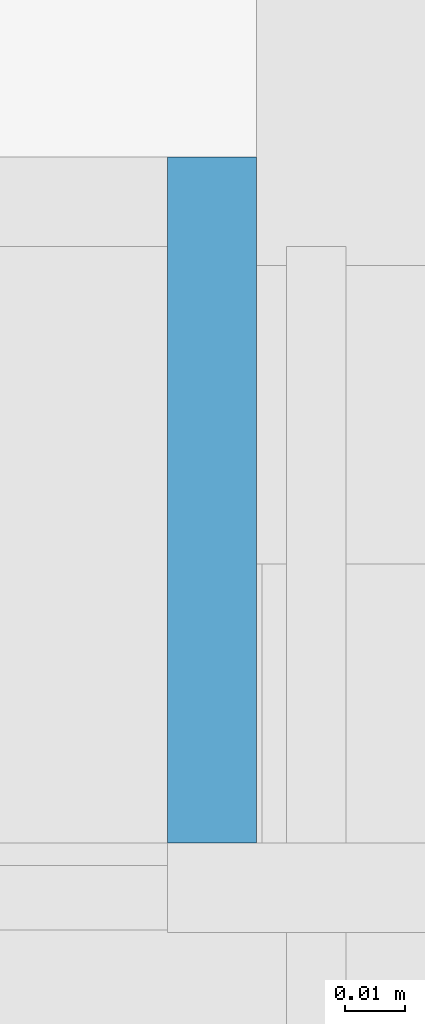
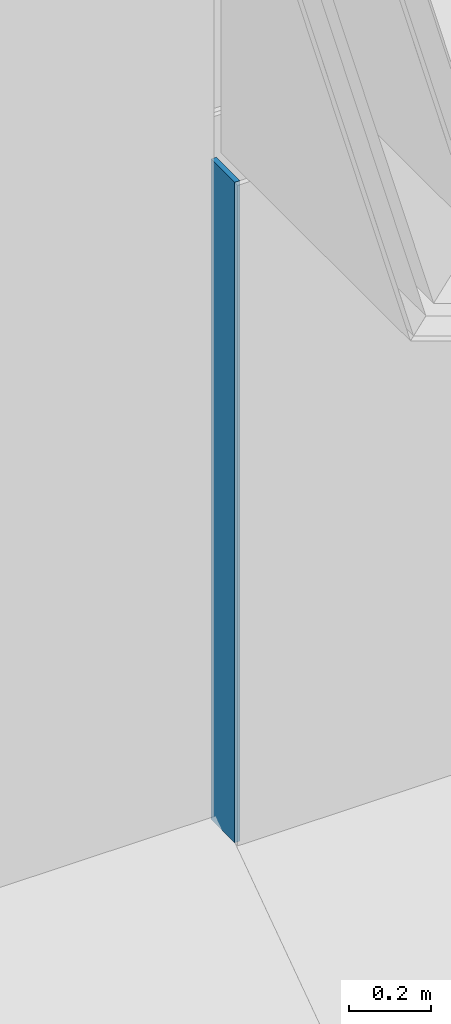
# One storey, part 296 of 583: 1 slab.
"""IFC2X3 building model written with IfcOpenShell, lengths in metres."""

from ifc_helpers import new_model, entity, si_unit, converted_unit, derived_unit, money_unit, direction, frame, origin_with_axes, place, context, subcontext, project, spatial, faceted_brep, material, type_object, element, save


model = new_model("IFC2X3")

# Units and contexts
model_context = context("Model", 3, precision=1e-05, world=origin_with_axes(), true_north=direction((0.0, 1.0)))
body_context = subcontext(model_context, "Body", "Model", "MODEL_VIEW", scale=1.0)
ifc_project = project(units=[si_unit("LENGTHUNIT", "METRE"), si_unit("AREAUNIT", "SQUARE_METRE"), si_unit("VOLUMEUNIT", "CUBIC_METRE"), si_unit("ABSORBEDDOSEUNIT", "GRAY"), si_unit("AMOUNTOFSUBSTANCEUNIT", "MOLE"), si_unit("DOSEEQUIVALENTUNIT", "SIEVERT"), si_unit("ELECTRICCAPACITANCEUNIT", "FARAD"), si_unit("ELECTRICCHARGEUNIT", "COULOMB"), si_unit("ELECTRICCONDUCTANCEUNIT", "SIEMENS"), si_unit("ELECTRICCURRENTUNIT", "AMPERE"), si_unit("ELECTRICRESISTANCEUNIT", "OHM"), si_unit("ELECTRICVOLTAGEUNIT", "VOLT"), si_unit("ENERGYUNIT", "JOULE"), si_unit("FORCEUNIT", "NEWTON"), si_unit("FREQUENCYUNIT", "HERTZ"), si_unit("ILLUMINANCEUNIT", "LUX"), si_unit("INDUCTANCEUNIT", "HENRY"), si_unit("LUMINOUSFLUXUNIT", "LUMEN"), si_unit("LUMINOUSINTENSITYUNIT", "CANDELA"), si_unit("MAGNETICFLUXDENSITYUNIT", "TESLA"), si_unit("MAGNETICFLUXUNIT", "WEBER"), si_unit("MASSUNIT", "GRAM"), converted_unit("PLANEANGLEUNIT", "degree", entity("IfcReal", 0.0174532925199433), si_unit("PLANEANGLEUNIT", "RADIAN"), dimensions=[0, 0, 0, 0, 0, 0, 0]), si_unit("POWERUNIT", "WATT"), si_unit("PRESSUREUNIT", "PASCAL"), si_unit("RADIOACTIVITYUNIT", "BECQUEREL"), si_unit("SOLIDANGLEUNIT", "STERADIAN"), si_unit("THERMODYNAMICTEMPERATUREUNIT", "KELVIN"), si_unit("TIMEUNIT", "SECOND"), derived_unit("ACCELERATIONUNIT", [(si_unit("LENGTHUNIT", "METRE"), 1), (si_unit("TIMEUNIT", "SECOND"), -2)]), derived_unit("ANGULARVELOCITYUNIT", [(converted_unit("PLANEANGLEUNIT", "degree", entity("IfcReal", 0.0174532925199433), si_unit("PLANEANGLEUNIT", "RADIAN"), dimensions=[0, 0, 0, 0, 0, 0, 0]), 1), (si_unit("TIMEUNIT", "SECOND"), -1)]), derived_unit("CURVATUREUNIT", [(converted_unit("PLANEANGLEUNIT", "degree", entity("IfcReal", 0.0174532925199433), si_unit("PLANEANGLEUNIT", "RADIAN"), dimensions=[0, 0, 0, 0, 0, 0, 0]), 1), (si_unit("LENGTHUNIT", "METRE"), -1)]), derived_unit("DYNAMICVISCOSITYUNIT", [(si_unit("PRESSUREUNIT", "PASCAL"), 1), (si_unit("TIMEUNIT", "SECOND"), 1)]), derived_unit("HEATFLUXDENSITYUNIT", [(si_unit("POWERUNIT", "WATT"), 1), (si_unit("LENGTHUNIT", "METRE"), -2)]), derived_unit("HEATINGVALUEUNIT", [(si_unit("ENERGYUNIT", "JOULE"), 1), (si_unit("MASSUNIT", "GRAM"), -1)]), derived_unit("INTEGERCOUNTRATEUNIT", [(si_unit("TIMEUNIT", "SECOND"), -1)]), derived_unit("IONCONCENTRATIONUNIT", [(si_unit("MASSUNIT", "GRAM"), 1), (si_unit("VOLUMEUNIT", "CUBIC_METRE"), -1)]), derived_unit("ISOTHERMALMOISTURECAPACITYUNIT", [(si_unit("VOLUMEUNIT", "CUBIC_METRE"), 1), (si_unit("MASSUNIT", "GRAM"), -1)]), derived_unit("KINEMATICVISCOSITYUNIT", [(si_unit("AREAUNIT", "SQUARE_METRE"), 1), (si_unit("TIMEUNIT", "SECOND"), -1)]), derived_unit("LINEARFORCEUNIT", [(si_unit("FORCEUNIT", "NEWTON"), 1), (si_unit("LENGTHUNIT", "METRE"), -1)]), derived_unit("LINEARMOMENTUNIT", [(si_unit("FORCEUNIT", "NEWTON"), 1), (si_unit("LENGTHUNIT", "METRE"), -1)]), derived_unit("LINEARSTIFFNESSUNIT", [(si_unit("FORCEUNIT", "NEWTON"), 1), (si_unit("LENGTHUNIT", "METRE"), -1)]), derived_unit("LINEARVELOCITYUNIT", [(si_unit("LENGTHUNIT", "METRE"), 1), (si_unit("TIMEUNIT", "SECOND"), -1)]), derived_unit("LUMINOUSINTENSITYDISTRIBUTIONUNIT", [(si_unit("LUMINOUSINTENSITYUNIT", "CANDELA"), 1), (si_unit("LUMINOUSFLUXUNIT", "LUMEN"), -1)]), derived_unit("MASSDENSITYUNIT", [(si_unit("MASSUNIT", "GRAM"), 1), (si_unit("VOLUMEUNIT", "CUBIC_METRE"), -1)]), derived_unit("MASSFLOWRATEUNIT", [(si_unit("MASSUNIT", "GRAM"), 1), (si_unit("TIMEUNIT", "SECOND"), -1)]), derived_unit("MASSPERLENGTHUNIT", [(si_unit("MASSUNIT", "GRAM"), 1), (si_unit("LENGTHUNIT", "METRE"), -1)]), derived_unit("MODULUSOFELASTICITYUNIT", [(si_unit("FORCEUNIT", "NEWTON"), 1), (si_unit("AREAUNIT", "SQUARE_METRE"), -1)]), derived_unit("MODULUSOFLINEARSUBGRADEREACTIONUNIT", [(si_unit("FORCEUNIT", "NEWTON"), 1), (si_unit("LENGTHUNIT", "METRE"), -2)]), derived_unit("MODULUSOFROTATIONALSUBGRADEREACTIONUNIT", [(si_unit("FORCEUNIT", "NEWTON"), 1), (si_unit("LENGTHUNIT", "METRE"), 1)]), derived_unit("MODULUSOFSUBGRADEREACTIONUNIT", [(si_unit("FORCEUNIT", "NEWTON"), 1), (si_unit("VOLUMEUNIT", "CUBIC_METRE"), -1)]), derived_unit("MOISTUREDIFFUSIVITYUNIT", [(si_unit("VOLUMEUNIT", "CUBIC_METRE"), 1), (si_unit("TIMEUNIT", "SECOND"), -1)]), derived_unit("MOLECULARWEIGHTUNIT", [(si_unit("MASSUNIT", "GRAM"), 1), (si_unit("AMOUNTOFSUBSTANCEUNIT", "MOLE"), -1)]), derived_unit("PLANARFORCEUNIT", [(si_unit("FORCEUNIT", "NEWTON"), 1), (si_unit("LENGTHUNIT", "METRE"), -2)]), derived_unit("ROTATIONALFREQUENCYUNIT", [(si_unit("TIMEUNIT", "SECOND"), -1)]), derived_unit("ROTATIONALMASSUNIT", [(si_unit("MASSUNIT", "GRAM"), 1), (si_unit("LENGTHUNIT", "METRE"), 2)]), derived_unit("ROTATIONALSTIFFNESSUNIT", [(si_unit("FORCEUNIT", "NEWTON"), 1), (si_unit("LENGTHUNIT", "METRE"), 1), (converted_unit("PLANEANGLEUNIT", "degree", entity("IfcReal", 0.0174532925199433), si_unit("PLANEANGLEUNIT", "RADIAN"), dimensions=[0, 0, 0, 0, 0, 0, 0]), -1)]), derived_unit("SECTIONAREAINTEGRALUNIT", [(si_unit("LENGTHUNIT", "METRE"), 5)]), derived_unit("SECTIONMODULUSUNIT", [(si_unit("LENGTHUNIT", "METRE"), 3)]), derived_unit("SHEARMODULUSUNIT", [(si_unit("FORCEUNIT", "NEWTON"), 1), (si_unit("AREAUNIT", "SQUARE_METRE"), -1)]), derived_unit("SOUNDPOWERUNIT", [(si_unit("ENERGYUNIT", "JOULE"), 1), (si_unit("TIMEUNIT", "SECOND"), -1)]), derived_unit("SPECIFICHEATCAPACITYUNIT", [(si_unit("FORCEUNIT", "NEWTON"), 1), (si_unit("MASSUNIT", "GRAM"), -1), (si_unit("THERMODYNAMICTEMPERATUREUNIT", "KELVIN"), -1)]), derived_unit("TEMPERATUREGRADIENTUNIT", [(si_unit("THERMODYNAMICTEMPERATUREUNIT", "KELVIN"), 1), (si_unit("LENGTHUNIT", "METRE"), -1)]), derived_unit("THERMALADMITTANCEUNIT", [(si_unit("POWERUNIT", "WATT"), 1), (si_unit("AREAUNIT", "SQUARE_METRE"), -1), (si_unit("THERMODYNAMICTEMPERATUREUNIT", "KELVIN"), -1)]), derived_unit("THERMALCONDUCTANCEUNIT", [(si_unit("POWERUNIT", "WATT"), 1), (si_unit("LENGTHUNIT", "METRE"), -1), (si_unit("THERMODYNAMICTEMPERATUREUNIT", "KELVIN"), -1)]), derived_unit("THERMALEXPANSIONCOEFFICIENTUNIT", [(si_unit("THERMODYNAMICTEMPERATUREUNIT", "KELVIN"), -1)]), derived_unit("THERMALRESISTANCEUNIT", [(si_unit("AREAUNIT", "SQUARE_METRE"), 1), (si_unit("POWERUNIT", "WATT"), -1)]), derived_unit("THERMALTRANSMITTANCEUNIT", [(si_unit("POWERUNIT", "WATT"), 1), (si_unit("AREAUNIT", "SQUARE_METRE"), -1), (si_unit("THERMODYNAMICTEMPERATUREUNIT", "KELVIN"), -1)]), derived_unit("TORQUEUNIT", [(si_unit("FORCEUNIT", "NEWTON"), 1), (si_unit("LENGTHUNIT", "METRE"), 1)]), derived_unit("VAPORPERMEABILITYUNIT", [(si_unit("MASSUNIT", "GRAM"), 1), (si_unit("TIMEUNIT", "SECOND"), -1)]), derived_unit("VOLUMETRICFLOWRATEUNIT", [(si_unit("VOLUMEUNIT", "CUBIC_METRE"), 1), (si_unit("TIMEUNIT", "SECOND"), -1)]), derived_unit("WARPINGCONSTANTUNIT", [(si_unit("LENGTHUNIT", "METRE"), 6)]), derived_unit("WARPINGMOMENTUNIT", [(si_unit("FORCEUNIT", "NEWTON"), 1), (si_unit("LENGTHUNIT", "METRE"), 2)]), money_unit("GBP")], contexts=[model_context])

# Site, building, storey
site_placement = place(None, origin_with_axes())
site = spatial("IfcSite", under=ifc_project, at=site_placement, Name="Site", CompositionType="ELEMENT")
building_placement = place(site_placement, origin_with_axes())
building = spatial("IfcBuilding", under=site, at=building_placement, Name="Building01", CompositionType="ELEMENT")
storey_placement = place(building_placement, frame((0.0, 0.0, 20.78), z_axis=(0.0, 0.0, 1.0), x_axis=(1.0, 0.0, 0.0)))
storey = spatial("IfcBuildingStorey", under=building, at=storey_placement, Name="RL", CompositionType="ELEMENT", Elevation=20.78)

# Slab
ifc_material = material(Name="A_BSUK_CeilingSoffitFinishes_Suspended")
slab_type = type_object("IfcSlabType", Name="A-FloorsSlabs A_BSUK_Slabs", PredefinedType="FLOOR")
slab_placement = place(storey_placement, frame((0.0, 0.0, -20.78), z_axis=(0.0, 0.0, 1.0), x_axis=(1.0, 0.0, 0.0)))
element("IfcSlab", 1, at=slab_placement, inside=storey, type_object=slab_type, material=ifc_material, Name="A-FloorsSlabs A_BSUK_Slabs", ObjectType="CompoundSlabLeaf", context=body_context, shape_type="Brep", body=[
    faceted_brep([(11.399939, 20.08, 4.760024), (11.414939, 20.08, 4.760024), (11.414939, 20.195, 4.760024), (11.399939, 20.195, 4.760024), (11.399939, 20.08, 2.798126), (11.414939, 20.08, 2.798126), (11.399939, 20.195, 2.798126), (11.414939, 20.195, 2.798126)], [[[0, 1, 2, 3]], [[4, 5, 1, 0]], [[6, 7, 5, 4]], [[3, 2, 7, 6]], [[1, 5, 7, 2]], [[3, 6, 4, 0]]]),
])

save(model, "model.ifc")
